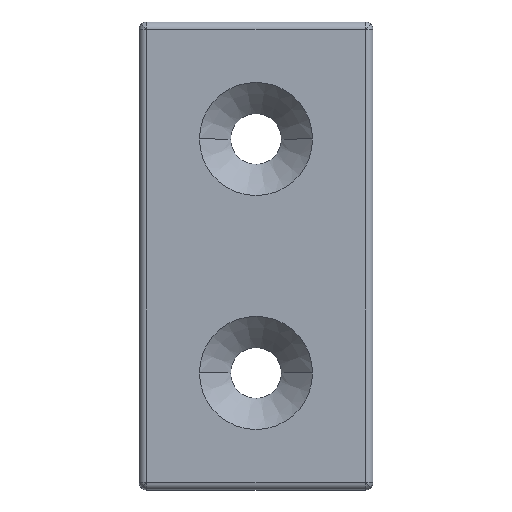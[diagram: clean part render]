
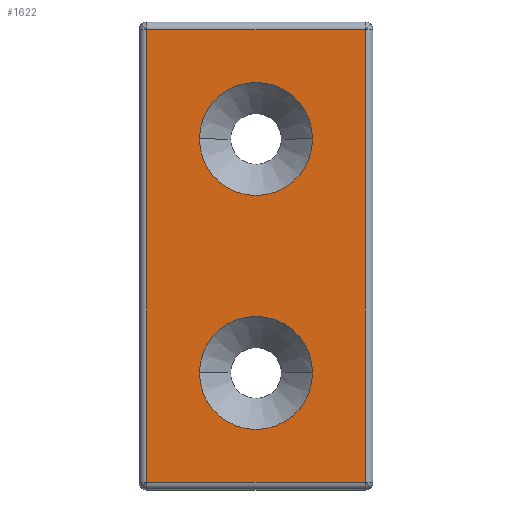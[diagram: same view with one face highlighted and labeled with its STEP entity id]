
A CAD part, top view. The second image highlights one B-rep face of the part: STEP entity #1622.
In plain terms, the highlighted planar face has unit normal (0, 0, 1).
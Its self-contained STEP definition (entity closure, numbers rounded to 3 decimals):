
#15 = EDGE_LOOP ( 'NONE', ( #1553, #252 ) ) ;
#22 = CARTESIAN_POINT ( 'NONE',  ( 0., 15., 5. ) ) ;
#35 = CARTESIAN_POINT ( 'NONE',  ( 7.25, -15., 5. ) ) ;
#52 = CARTESIAN_POINT ( 'NONE',  ( 0., 0., 5. ) ) ;
#79 = AXIS2_PLACEMENT_3D ( 'NONE', #1532, #482, #805 ) ;
#237 = CIRCLE ( 'NONE', #79, 7.25 ) ;
#246 = CARTESIAN_POINT ( 'NONE',  ( 0., 15., 5. ) ) ;
#252 = ORIENTED_EDGE ( 'NONE', *, *, #1680, .T. ) ;
#289 = AXIS2_PLACEMENT_3D ( 'NONE', #1550, #1029, #1689 ) ;
#314 = EDGE_CURVE ( 'NONE', #1274, #688, #1360, .T. ) ;
#337 = DIRECTION ( 'NONE',  ( -1., 0., 0. ) ) ;
#341 = VECTOR ( 'NONE', #1452, 1000. ) ;
#401 = CARTESIAN_POINT ( 'NONE',  ( -7.25, -15., 5. ) ) ;
#452 = EDGE_CURVE ( 'NONE', #1498, #1116, #237, .T. ) ;
#482 = DIRECTION ( 'NONE',  ( 0., 0., -1. ) ) ;
#494 = EDGE_CURVE ( 'NONE', #1358, #1274, #571, .T. ) ;
#535 = CARTESIAN_POINT ( 'NONE',  ( 14., -29., 5. ) ) ;
#541 = ORIENTED_EDGE ( 'NONE', *, *, #1101, .T. ) ;
#554 = CARTESIAN_POINT ( 'NONE',  ( 0., -29., 5. ) ) ;
#567 = ORIENTED_EDGE ( 'NONE', *, *, #789, .T. ) ;
#571 = LINE ( 'NONE', #794, #1258 ) ;
#596 = DIRECTION ( 'NONE',  ( 0., 0., -1. ) ) ;
#601 = ORIENTED_EDGE ( 'NONE', *, *, #1171, .T. ) ;
#660 = CARTESIAN_POINT ( 'NONE',  ( 0., 29., 5. ) ) ;
#669 = EDGE_LOOP ( 'NONE', ( #567, #1233 ) ) ;
#688 = VERTEX_POINT ( 'NONE', #535 ) ;
#736 = EDGE_LOOP ( 'NONE', ( #541, #1535, #1098, #601 ) ) ;
#779 = FACE_BOUND ( 'NONE', #15, .T. ) ;
#789 = EDGE_CURVE ( 'NONE', #1116, #1498, #1341, .T. ) ;
#794 = CARTESIAN_POINT ( 'NONE',  ( -14., 0., 5. ) ) ;
#805 = DIRECTION ( 'NONE',  ( 1., 0., 0. ) ) ;
#807 = FACE_OUTER_BOUND ( 'NONE', #736, .T. ) ;
#872 = LINE ( 'NONE', #660, #1621 ) ;
#880 = CARTESIAN_POINT ( 'NONE',  ( -7.25, 15., 5. ) ) ;
#928 = CARTESIAN_POINT ( 'NONE',  ( 14., 0., 5. ) ) ;
#963 = DIRECTION ( 'NONE',  ( 1., 0., 0. ) ) ;
#972 = DIRECTION ( 'NONE',  ( 0., 0., -1. ) ) ;
#994 = CIRCLE ( 'NONE', #1113, 7.25 ) ;
#1029 = DIRECTION ( 'NONE',  ( 0., 0., -1. ) ) ;
#1040 = DIRECTION ( 'NONE',  ( 0., -1., 0. ) ) ;
#1070 = DIRECTION ( 'NONE',  ( 1., 0., 0. ) ) ;
#1074 = PLANE ( 'NONE',  #1381 ) ;
#1075 = FACE_BOUND ( 'NONE', #669, .T. ) ;
#1098 = ORIENTED_EDGE ( 'NONE', *, *, #314, .T. ) ;
#1101 = EDGE_CURVE ( 'NONE', #1475, #1358, #872, .T. ) ;
#1105 = CARTESIAN_POINT ( 'NONE',  ( 14., 29., 5. ) ) ;
#1113 = AXIS2_PLACEMENT_3D ( 'NONE', #22, #596, #1070 ) ;
#1116 = VERTEX_POINT ( 'NONE', #401 ) ;
#1143 = LINE ( 'NONE', #928, #341 ) ;
#1171 = EDGE_CURVE ( 'NONE', #688, #1475, #1143, .T. ) ;
#1210 = CARTESIAN_POINT ( 'NONE',  ( -14., 29., 5. ) ) ;
#1219 = VECTOR ( 'NONE', #1246, 1000. ) ;
#1233 = ORIENTED_EDGE ( 'NONE', *, *, #452, .T. ) ;
#1246 = DIRECTION ( 'NONE',  ( 1., 0., 0. ) ) ;
#1258 = VECTOR ( 'NONE', #1040, 1000. ) ;
#1274 = VERTEX_POINT ( 'NONE', #1737 ) ;
#1341 = CIRCLE ( 'NONE', #289, 7.25 ) ;
#1358 = VERTEX_POINT ( 'NONE', #1210 ) ;
#1360 = LINE ( 'NONE', #554, #1219 ) ;
#1369 = CARTESIAN_POINT ( 'NONE',  ( 7.25, 15., 5. ) ) ;
#1381 = AXIS2_PLACEMENT_3D ( 'NONE', #52, #1659, #963 ) ;
#1425 = EDGE_CURVE ( 'NONE', #1577, #1662, #1626, .T. ) ;
#1452 = DIRECTION ( 'NONE',  ( 0., 1., 0. ) ) ;
#1475 = VERTEX_POINT ( 'NONE', #1105 ) ;
#1498 = VERTEX_POINT ( 'NONE', #35 ) ;
#1521 = DIRECTION ( 'NONE',  ( 1., 0., 0. ) ) ;
#1532 = CARTESIAN_POINT ( 'NONE',  ( 0., -15., 5. ) ) ;
#1535 = ORIENTED_EDGE ( 'NONE', *, *, #494, .T. ) ;
#1540 = AXIS2_PLACEMENT_3D ( 'NONE', #246, #972, #1521 ) ;
#1550 = CARTESIAN_POINT ( 'NONE',  ( 0., -15., 5. ) ) ;
#1553 = ORIENTED_EDGE ( 'NONE', *, *, #1425, .T. ) ;
#1577 = VERTEX_POINT ( 'NONE', #880 ) ;
#1621 = VECTOR ( 'NONE', #337, 1000. ) ;
#1622 = ADVANCED_FACE ( 'NONE', ( #779, #1075, #807 ), #1074, .T. ) ;
#1626 = CIRCLE ( 'NONE', #1540, 7.25 ) ;
#1659 = DIRECTION ( 'NONE',  ( 0., 0., 1. ) ) ;
#1662 = VERTEX_POINT ( 'NONE', #1369 ) ;
#1680 = EDGE_CURVE ( 'NONE', #1662, #1577, #994, .T. ) ;
#1689 = DIRECTION ( 'NONE',  ( 1., 0., 0. ) ) ;
#1737 = CARTESIAN_POINT ( 'NONE',  ( -14., -29., 5. ) ) ;
